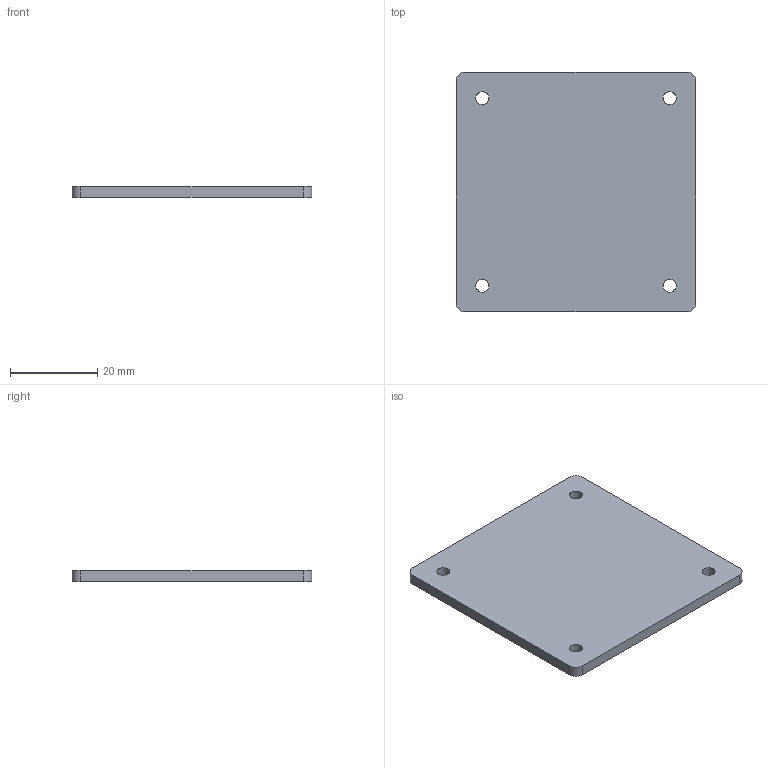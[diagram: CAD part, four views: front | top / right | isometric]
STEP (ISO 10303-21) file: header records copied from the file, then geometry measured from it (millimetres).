
FILE_DESCRIPTION(('FreeCAD Model'),'2;1');
FILE_NAME('Open CASCADE Shape Model','2026-09-10T22:55:29',( '' ),( '' ),'Open CASCADE STEP processor 7.8','FreeCAD','Unknown');
FILE_SCHEMA(('AUTOMOTIVE_DESIGN { 1 0 10303 214 1 1 1 1 }'));
Length unit declared in the file: millimetre
Products named in the file (1): Open CASCADE STEP translator 7.8 1
Bounding box: 55 x 55 x 2.5 mm (x, y, z)
Volume: 7483.2 mm3; surface area: 6622.2 mm2
Topology: 1 solids, 1 shells, 14 faces, 36 edges, 24 vertices
Faces by surface type: cylinder 8, plane 6
Full cylindrical faces by diameter (mm): 3 x4
Entity records: 462 total; most frequent: DIRECTION 82, CARTESIAN_POINT 75, ORIENTED_EDGE 72, EDGE_CURVE 36, AXIS2_PLACEMENT_3D 31, VERTEX_POINT 24, FACE_BOUND 22, EDGE_LOOP 22
